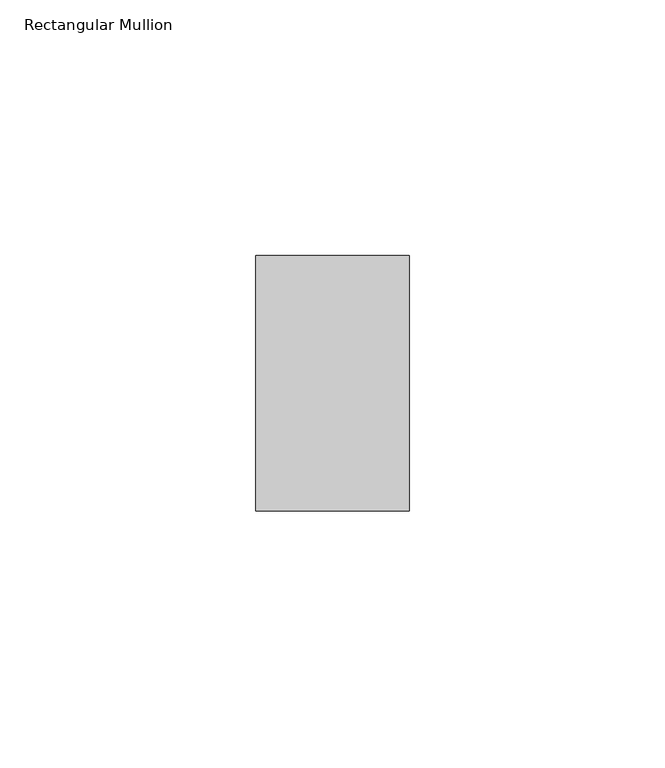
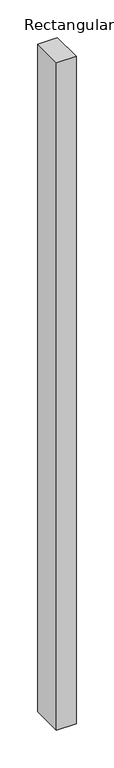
"""IFC4 building model written with IfcOpenShell, lengths in millimetres: member geometry, Rectangular Mullion : ARQ_TV_MULL_50x30mm."""

from ifc_helpers import new_model, si_unit, frame, origin, place, context, project, spatial, polyline, outline, extrude, source, transform, mapped, element, save


def rectangular_mullion_80493510(model_context):
    return source(origin(), model_context, "Body", "SweptSolid", [
        extrude(outline(polyline([(0.0, 25.0), (0.0, -25.0), (-30.0, -25.0), (-30.0, 25.0), (0.0, 25.0)])), frame((0.0, 0.0, -1082.4284367), z_axis=(0.0, 0.0, 1.0), x_axis=(1.0, 0.0, 0.0)), (0.0, 0.0, 1.0), 1082.4284367),
    ])


if __name__ == "__main__":
    model = new_model("IFC4")
    model_context = context("Model", 3, world=origin())
    ifc_project = project(units=[si_unit("LENGTHUNIT", "METRE", prefix="MILLI")], contexts=[model_context])
    site = spatial("IfcSite", under=ifc_project)
    building = spatial("IfcBuilding", under=site)
    placement = place(None, origin())
    rectangular_mullion_shape = rectangular_mullion_80493510(model_context)
    element("IfcMember", 1, ObjectType="Rectangular Mullion : ARQ_TV_MULL_50x30mm", at=placement, inside=building, context=model_context, shape_type="MappedRepresentation", body=[
        mapped(rectangular_mullion_shape, transform((0.0, 0.0, 0.0), x_axis=(1.0, 0.0, 0.0), y_axis=(0.0, 1.0, 0.0), z_axis=(0.0, 0.0, 1.0))),
    ])
    save(model, "model.ifc")
